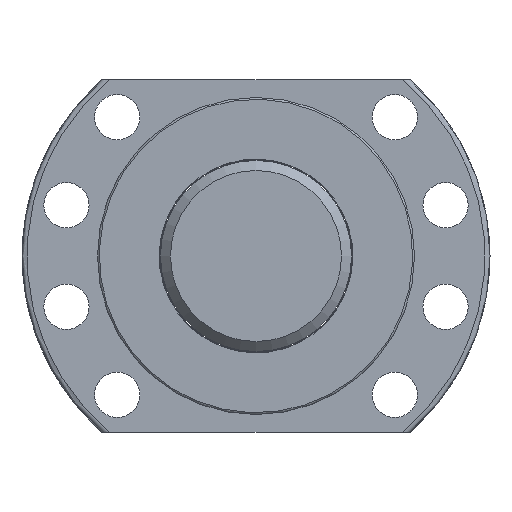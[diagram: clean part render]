
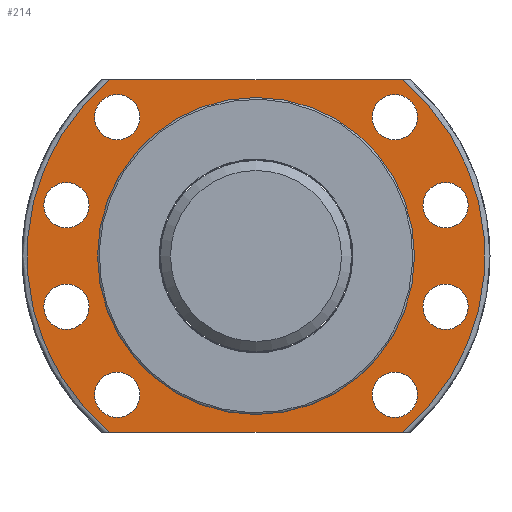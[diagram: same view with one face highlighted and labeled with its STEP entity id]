
A CAD part, left-side view. The second image highlights one B-rep face of the part: STEP entity #214.
In plain terms, the highlighted planar face has unit normal (-1, 0, 0).
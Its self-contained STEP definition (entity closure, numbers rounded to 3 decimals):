
#109=LINE('',#1365,#117);
#110=LINE('',#1369,#118);
#117=VECTOR('',#1075,1.);
#118=VECTOR('',#1078,1.);
#154=PLANE('',#887);
#178=FACE_OUTER_BOUND('',#413,.T.);
#214=ADVANCED_FACE('',(#303,#304,#305,#306,#307,#308,#309,#310,#178,#311),
#154,.F.);
#303=FACE_BOUND('',#405,.T.);
#304=FACE_BOUND('',#406,.T.);
#305=FACE_BOUND('',#407,.T.);
#306=FACE_BOUND('',#408,.T.);
#307=FACE_BOUND('',#409,.T.);
#308=FACE_BOUND('',#410,.T.);
#309=FACE_BOUND('',#411,.T.);
#310=FACE_BOUND('',#412,.T.);
#311=FACE_BOUND('',#414,.T.);
#405=EDGE_LOOP('',(#532));
#406=EDGE_LOOP('',(#533));
#407=EDGE_LOOP('',(#534));
#408=EDGE_LOOP('',(#535));
#409=EDGE_LOOP('',(#536));
#410=EDGE_LOOP('',(#537));
#411=EDGE_LOOP('',(#538));
#412=EDGE_LOOP('',(#539));
#413=EDGE_LOOP('',(#540,#541,#542,#543));
#414=EDGE_LOOP('',(#544));
#532=ORIENTED_EDGE('',*,*,#726,.T.);
#533=ORIENTED_EDGE('',*,*,#727,.T.);
#534=ORIENTED_EDGE('',*,*,#728,.T.);
#535=ORIENTED_EDGE('',*,*,#729,.T.);
#536=ORIENTED_EDGE('',*,*,#730,.T.);
#537=ORIENTED_EDGE('',*,*,#731,.T.);
#538=ORIENTED_EDGE('',*,*,#732,.T.);
#539=ORIENTED_EDGE('',*,*,#733,.T.);
#540=ORIENTED_EDGE('',*,*,#703,.T.);
#541=ORIENTED_EDGE('',*,*,#734,.T.);
#542=ORIENTED_EDGE('',*,*,#735,.T.);
#543=ORIENTED_EDGE('',*,*,#736,.T.);
#544=ORIENTED_EDGE('',*,*,#737,.F.);
#635=VERTEX_POINT('',#1245);
#636=VERTEX_POINT('',#1247);
#656=VERTEX_POINT('',#1350);
#657=VERTEX_POINT('',#1352);
#658=VERTEX_POINT('',#1354);
#659=VERTEX_POINT('',#1356);
#660=VERTEX_POINT('',#1358);
#661=VERTEX_POINT('',#1360);
#662=VERTEX_POINT('',#1362);
#663=VERTEX_POINT('',#1364);
#664=VERTEX_POINT('',#1366);
#665=VERTEX_POINT('',#1368);
#666=VERTEX_POINT('',#1371);
#703=EDGE_CURVE('',#636,#635,#775,.T.);
#726=EDGE_CURVE('',#656,#656,#791,.T.);
#727=EDGE_CURVE('',#657,#657,#792,.T.);
#728=EDGE_CURVE('',#658,#658,#793,.T.);
#729=EDGE_CURVE('',#659,#659,#794,.T.);
#730=EDGE_CURVE('',#660,#660,#795,.T.);
#731=EDGE_CURVE('',#661,#661,#796,.T.);
#732=EDGE_CURVE('',#662,#662,#797,.T.);
#733=EDGE_CURVE('',#663,#663,#798,.T.);
#734=EDGE_CURVE('',#635,#664,#109,.T.);
#735=EDGE_CURVE('',#664,#665,#799,.T.);
#736=EDGE_CURVE('',#665,#636,#110,.T.);
#737=EDGE_CURVE('',#666,#666,#800,.T.);
#775=CIRCLE('',#855,45.5);
#791=CIRCLE('',#877,4.5);
#792=CIRCLE('',#878,4.5);
#793=CIRCLE('',#879,4.5);
#794=CIRCLE('',#880,4.5);
#795=CIRCLE('',#881,4.5);
#796=CIRCLE('',#882,4.5);
#797=CIRCLE('',#883,4.5);
#798=CIRCLE('',#884,4.5);
#799=CIRCLE('',#885,45.5);
#800=CIRCLE('',#886,31.5);
#855=AXIS2_PLACEMENT_3D('',#1246,#1011,#1012);
#877=AXIS2_PLACEMENT_3D('',#1349,#1059,#1060);
#878=AXIS2_PLACEMENT_3D('',#1351,#1061,#1062);
#879=AXIS2_PLACEMENT_3D('',#1353,#1063,#1064);
#880=AXIS2_PLACEMENT_3D('',#1355,#1065,#1066);
#881=AXIS2_PLACEMENT_3D('',#1357,#1067,#1068);
#882=AXIS2_PLACEMENT_3D('',#1359,#1069,#1070);
#883=AXIS2_PLACEMENT_3D('',#1361,#1071,#1072);
#884=AXIS2_PLACEMENT_3D('',#1363,#1073,#1074);
#885=AXIS2_PLACEMENT_3D('',#1367,#1076,#1077);
#886=AXIS2_PLACEMENT_3D('',#1370,#1079,#1080);
#887=AXIS2_PLACEMENT_3D('',#1372,#1081,#1082);
#1011=DIRECTION('',(-1.,0.,0.));
#1012=DIRECTION('',(0.,0.,-1.));
#1059=DIRECTION('',(1.,0.,0.));
#1060=DIRECTION('',(0.,0.,-1.));
#1061=DIRECTION('',(1.,0.,0.));
#1062=DIRECTION('',(0.,0.,-1.));
#1063=DIRECTION('',(1.,0.,0.));
#1064=DIRECTION('',(0.,0.,-1.));
#1065=DIRECTION('',(1.,0.,0.));
#1066=DIRECTION('',(0.,0.,-1.));
#1067=DIRECTION('',(1.,0.,0.));
#1068=DIRECTION('',(0.,0.,-1.));
#1069=DIRECTION('',(1.,0.,0.));
#1070=DIRECTION('',(0.,0.,-1.));
#1071=DIRECTION('',(1.,0.,0.));
#1072=DIRECTION('',(0.,0.,-1.));
#1073=DIRECTION('',(1.,0.,0.));
#1074=DIRECTION('',(0.,0.,-1.));
#1075=DIRECTION('',(0.,1.,0.));
#1076=DIRECTION('',(-1.,0.,0.));
#1077=DIRECTION('',(0.,0.,-1.));
#1078=DIRECTION('',(0.,-1.,0.));
#1079=DIRECTION('',(-1.,0.,0.));
#1080=DIRECTION('',(0.,0.,1.));
#1081=DIRECTION('',(1.,0.,0.));
#1082=DIRECTION('',(0.,0.,-1.));
#1245=CARTESIAN_POINT('',(48.5,-29.073,35.));
#1246=CARTESIAN_POINT('',(48.5,0.,0.));
#1247=CARTESIAN_POINT('',(48.5,-29.073,-35.));
#1349=CARTESIAN_POINT('',(48.5,-27.577,-27.577));
#1350=CARTESIAN_POINT('',(48.5,-27.577,-32.077));
#1351=CARTESIAN_POINT('',(48.5,-37.671,-10.094));
#1352=CARTESIAN_POINT('',(48.5,-37.671,-14.594));
#1353=CARTESIAN_POINT('',(48.5,-37.671,10.094));
#1354=CARTESIAN_POINT('',(48.5,-37.671,5.594));
#1355=CARTESIAN_POINT('',(48.5,-27.577,27.577));
#1356=CARTESIAN_POINT('',(48.5,-27.577,23.077));
#1357=CARTESIAN_POINT('',(48.5,37.671,10.094));
#1358=CARTESIAN_POINT('',(48.5,37.671,5.594));
#1359=CARTESIAN_POINT('',(48.5,27.577,27.577));
#1360=CARTESIAN_POINT('',(48.5,27.577,23.077));
#1361=CARTESIAN_POINT('',(48.5,27.577,-27.577));
#1362=CARTESIAN_POINT('',(48.5,27.577,-32.077));
#1363=CARTESIAN_POINT('',(48.5,37.671,-10.094));
#1364=CARTESIAN_POINT('',(48.5,37.671,-14.594));
#1365=CARTESIAN_POINT('',(48.5,-31.811,35.));
#1366=CARTESIAN_POINT('',(48.5,29.073,35.));
#1367=CARTESIAN_POINT('',(48.5,0.,0.));
#1368=CARTESIAN_POINT('',(48.5,29.073,-35.));
#1369=CARTESIAN_POINT('',(48.5,-31.811,-35.));
#1370=CARTESIAN_POINT('',(48.5,0.,0.));
#1371=CARTESIAN_POINT('',(48.5,0.,31.5));
#1372=CARTESIAN_POINT('',(48.5,-31.811,0.));
